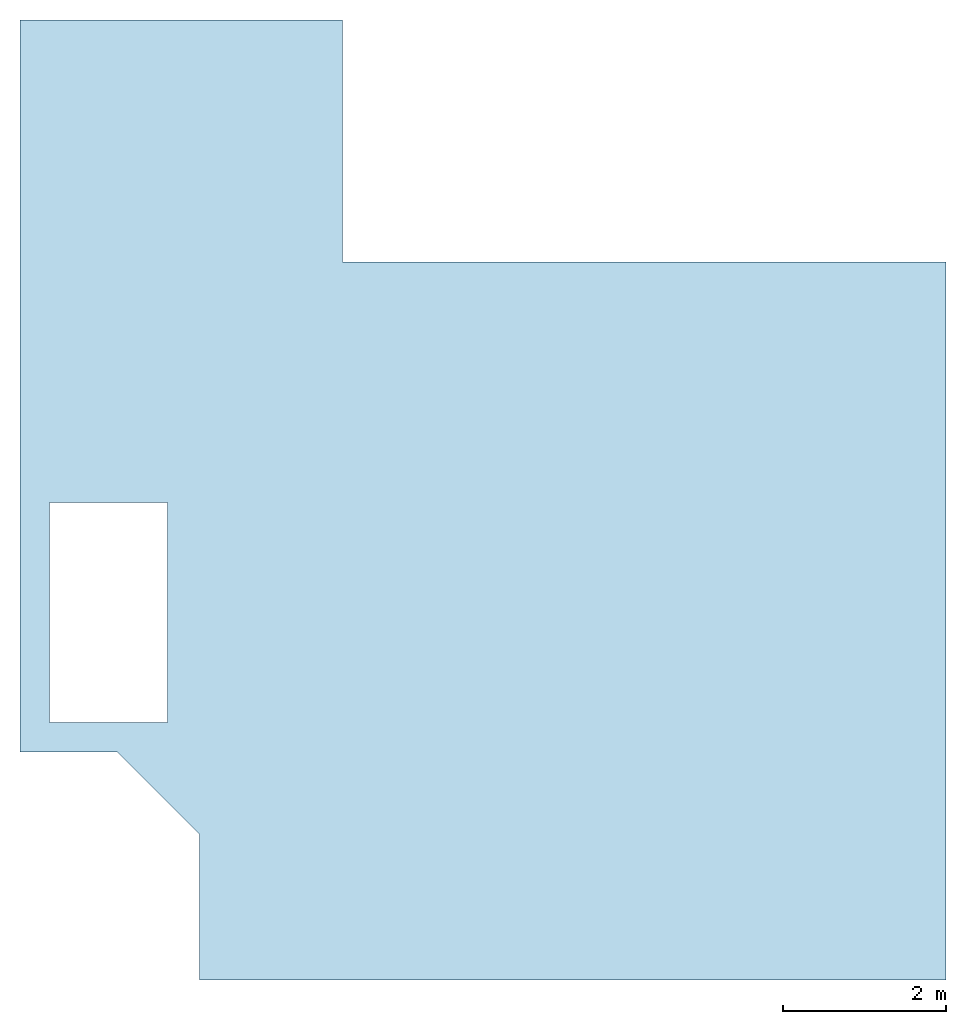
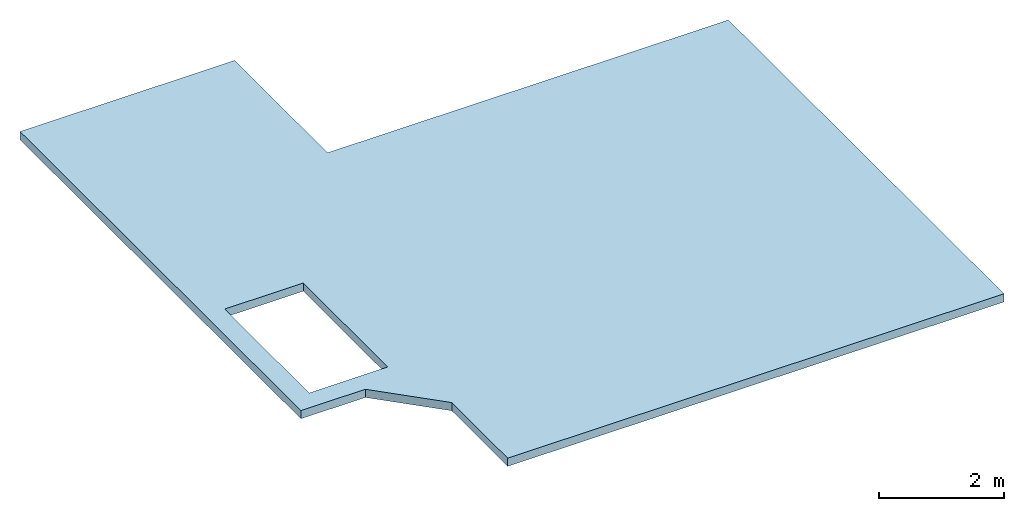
# One storey: 1 slab, 1 opening.
"""IFC2X3 building model written with IfcOpenShell, lengths in centimetres."""

import ifcopenshell
import ifcopenshell.guid

model = None  # the IFC model being written
_history = None  # IfcOwnerHistory: only IFC2X3 demands one
_inside = {}  # id of a spatial element -> (the spatial element, [elements in it])
_under = {}  # id of a project, library or spatial element -> (it, [spatial elements below it])
_declared = {}  # id of a project -> (the project, [libraries it declares])
_typed = {}  # id of a type object -> (the type object, [elements of that type])
_made_of = {}  # id of a material, layer set ... -> (it, [elements and type objects made of it])


def new_model(schema):
    """Start an empty IFC model of exactly this schema.

    Asked for "IFC4X3", IfcOpenShell would pick the latest addendum, in which some entities
    have other attributes; the version numbers below select the first issue.
    IFC2X3 requires an IfcOwnerHistory on every rooted entity: one is made here for all.
    """
    global model, _history
    if schema == "IFC4X3":
        model = ifcopenshell.file(schema_version=(4, 3, 0, 0))
    else:
        model = ifcopenshell.file(schema=schema)
    _inside.clear()
    _under.clear()
    _declared.clear()
    _typed.clear()
    _made_of.clear()
    _history = None
    if model.schema == "IFC2X3":
        org = make("IfcOrganization", Name="unknown")
        user = make(
            "IfcPersonAndOrganization",
            ThePerson=make("IfcPerson", FamilyName="unknown"),
            TheOrganization=org,
        )
        app = make(
            "IfcApplication",
            ApplicationDeveloper=org,
            Version="unknown",
            ApplicationFullName="unknown",
            ApplicationIdentifier="unknown",
        )
        _history = make(
            "IfcOwnerHistory",
            OwningUser=user,
            OwningApplication=app,
            ChangeAction="ADDED",
            CreationDate=0,
        )
    return model


def make(cls, **values):
    """One entity of the class cls with the attributes given. An attribute that is None is left unset."""
    return model.create_entity(
        cls, **{name: value for name, value in values.items() if value is not None}
    )


def entity(cls, *values):
    """Any entity or typed value of the class cls, its attributes in the order of the schema. None: left unset."""
    e = model.create_entity(cls)
    for i, value in enumerate(values):
        if value is not None:
            e[i] = value
    return e


def rooted(cls, **values):
    """An entity with a GlobalId (a new one), such as an element, a storey or a relation."""
    return make(cls, GlobalId=ifcopenshell.guid.new(), OwnerHistory=_history, **values)


def si_unit(unit_type, name, prefix=None):
    """IfcSIUnit, for example si_unit("LENGTHUNIT", "METRE", prefix="MILLI")."""
    return make("IfcSIUnit", UnitType=unit_type, Prefix=prefix, Name=name)


def converted_unit(unit_type, name, factor, base, dimensions=None, offset=None):
    """IfcConversionBasedUnit, such as the inch: factor (a typed value) times the base unit."""
    return make(
        "IfcConversionBasedUnit"
        if offset is None
        else "IfcConversionBasedUnitWithOffset",
        ConversionOffset=offset,
        Dimensions=None
        if dimensions is None
        else entity("IfcDimensionalExponents", *dimensions),
        UnitType=unit_type,
        Name=name,
        ConversionFactor=make(
            "IfcMeasureWithUnit", ValueComponent=factor, UnitComponent=base
        ),
    )


def derived_unit(unit_type, elements):
    """IfcDerivedUnit: a product of units, each with its exponent."""
    return make(
        "IfcDerivedUnit",
        Elements=[
            make("IfcDerivedUnitElement", Unit=unit, Exponent=power)
            for unit, power in elements
        ],
        UnitType=unit_type,
    )


def assignment(units):
    """IfcUnitAssignment: the units of a project."""
    return None if units is None else make("IfcUnitAssignment", Units=units)


def point(xyz):
    """IfcCartesianPoint."""
    return None if xyz is None else make("IfcCartesianPoint", Coordinates=xyz)


def direction(xyz):
    """IfcDirection."""
    return None if xyz is None else make("IfcDirection", DirectionRatios=xyz)


def frame(location, z_axis=None, x_axis=None):
    """IfcAxis2Placement3D, a coordinate frame: its origin and axes. An axis left out is left unset."""
    return make(
        "IfcAxis2Placement3D",
        Location=point(location),
        Axis=direction(z_axis),
        RefDirection=direction(x_axis),
    )


def frame_2d(location, x_axis=None):
    """IfcAxis2Placement2D, a coordinate frame in the plane: its origin and x axis."""
    return make(
        "IfcAxis2Placement2D", Location=point(location), RefDirection=direction(x_axis)
    )


def origin():
    """The frame at (0, 0, 0) with its axes left unset."""
    return frame((0.0, 0.0, 0.0))


def origin_2d_with_axis():
    """The frame at (0, 0) in the plane with the x axis (1, 0) written out."""
    return frame_2d((0.0, 0.0), x_axis=(1.0, 0.0))


def place(relative_to, where):
    """IfcLocalPlacement: puts the frame where relative to a parent placement (None: the world)."""
    return make(
        "IfcLocalPlacement", PlacementRelTo=relative_to, RelativePlacement=where
    )


def context(
    kind, dimensions, precision=None, world=None, true_north=None, identifier=None
):
    """IfcGeometricRepresentationContext, for example the 3D "Model" context."""
    return make(
        "IfcGeometricRepresentationContext",
        ContextIdentifier=identifier,
        ContextType=kind,
        CoordinateSpaceDimension=dimensions,
        Precision=precision,
        WorldCoordinateSystem=world,
        TrueNorth=true_north,
    )


def subcontext(parent, identifier, kind, view, scale=None):
    """IfcGeometricRepresentationSubContext, for example "Body" below "Model"."""
    return make(
        "IfcGeometricRepresentationSubContext",
        ContextIdentifier=identifier,
        ContextType=kind,
        ParentContext=parent,
        TargetScale=scale,
        TargetView=view,
    )


def project(units=None, contexts=None):
    """IfcProject with its units and contexts."""
    return rooted(
        "IfcProject",
        Name="project",
        RepresentationContexts=contexts,
        UnitsInContext=assignment(units),
    )


def spatial(cls, under=None, at=None, **own):
    """A site, building, storey or space (cls), placed at a placement, below another one or the project."""
    s = rooted(cls, ObjectPlacement=at, **own)
    if under is not None:
        _under.setdefault(under.id(), (under, []))[1].append(s)
    return s


def polyline(points):
    """IfcPolyline through the points."""
    return make("IfcPolyline", Points=[point(p) for p in points])


def profile(cls, at=None, kind="AREA", **sizes):
    """A parametric profile (cls). Its sizes go by their IFC names, for example OverallWidth=200.0."""
    return make(cls, ProfileType=kind, Position=at, **sizes)


def rectangle(**sizes):
    """IfcRectangleProfileDef."""
    return profile("IfcRectangleProfileDef", **sizes)


def outline(outer, holes=None, kind="AREA"):
    """IfcArbitraryClosedProfileDef: a profile drawn as a closed curve; with holes, ...WithVoids."""
    if holes is None:
        return make("IfcArbitraryClosedProfileDef", ProfileType=kind, OuterCurve=outer)
    return make(
        "IfcArbitraryProfileDefWithVoids",
        ProfileType=kind,
        OuterCurve=outer,
        InnerCurves=holes,
    )


def extrude(swept, where, along, depth):
    """IfcExtrudedAreaSolid: the profile swept, set in the frame where, extruded along a direction by depth."""
    return make(
        "IfcExtrudedAreaSolid",
        SweptArea=swept,
        Position=where,
        ExtrudedDirection=direction(along),
        Depth=depth,
    )


def shape(context_of_items, identifier, shape_type, items):
    """IfcShapeRepresentation: the items that make up one representation, for example the "Body"."""
    return make(
        "IfcShapeRepresentation",
        ContextOfItems=context_of_items,
        RepresentationIdentifier=identifier,
        RepresentationType=shape_type,
        Items=items,
    )


def material(Name=None, Category=None):
    """IfcMaterial."""
    return make("IfcMaterial", Name=Name, Category=Category)


def layer(
    of_material, thickness, ventilated=None, Name=None, Category=None, Priority=None
):
    """IfcMaterialLayer: one layer of a wall or slab, of a material (None: an air gap)."""
    return make(
        "IfcMaterialLayer",
        Material=of_material,
        LayerThickness=thickness,
        IsVentilated=ventilated,
        Name=Name,
        Category=Category,
        Priority=Priority,
    )


def layer_set(layers, Name=None):
    """IfcMaterialLayerSet."""
    return make("IfcMaterialLayerSet", MaterialLayers=layers, LayerSetName=Name)


def layer_usage(for_layer_set, set_direction, sense, offset, extent=None):
    """IfcMaterialLayerSetUsage: how a layer set lies in its element."""
    return make(
        "IfcMaterialLayerSetUsage",
        ForLayerSet=for_layer_set,
        LayerSetDirection=set_direction,
        DirectionSense=sense,
        OffsetFromReferenceLine=offset,
        ReferenceExtent=extent,
    )


def made_of(thing, what):
    """Note that an element or type object is made of a material, layer set ...; save() writes the relation."""
    if what is not None:
        _made_of.setdefault(what.id(), (what, []))[1].append(thing)
    return thing


def type_object(cls, material=None, **own):
    """A type object (cls), such as IfcWallType, which elements share."""
    return made_of(rooted(cls, **own), material)


def element(
    cls,
    number,
    at=None,
    inside=None,
    cuts=None,
    type_object=None,
    material=None,
    context=None,
    identifier="Body",
    shape_type=None,
    held_by="IfcProductDefinitionShape",
    body=None,
    shapes=None,
    **own,
):
    """One element of the class cls, such as IfcWall. Its Tag is "e" and its number.

    at: its placement. inside: the storey or other place that contains it. cuts: it is an
    opening in that element (IfcRelVoidsElement). A single representation is given by context,
    identifier, shape_type and body (its items); several are given by shapes. held_by: the class
    of the entity that holds the representations. save() writes the other relations.
    """
    e = rooted(cls, Tag="e%d" % number, ObjectPlacement=at, **own)
    if body is not None:
        shapes = [shape(context, identifier, shape_type, body)]
    if shapes is not None:
        e.Representation = make(held_by, Representations=shapes)
    if inside is not None:
        _inside.setdefault(inside.id(), (inside, []))[1].append(e)
    if cuts is not None:
        rooted(
            "IfcRelVoidsElement", RelatingBuildingElement=cuts, RelatedOpeningElement=e
        )
    if type_object is not None:
        _typed.setdefault(type_object.id(), (type_object, []))[1].append(e)
    return made_of(e, material)


def aggregate(whole, parts):
    """IfcRelAggregates: a whole, such as a stair, and the parts it consists of."""
    return rooted("IfcRelAggregates", RelatingObject=whole, RelatedObjects=parts)


def save(model, path):
    """Write the relations noted so far, then the file.

    IfcRelAggregates (storeys below a building ...), IfcRelContainedInSpatialStructure (elements
    in a storey), IfcRelDefinesByType, IfcRelAssociatesMaterial and IfcRelDeclares: one each for
    every whole, place, type object, material and project.
    """
    for whole, parts in _under.values():
        aggregate(whole, parts)
    for where, things in _inside.values():
        rooted(
            "IfcRelContainedInSpatialStructure",
            RelatedElements=things,
            RelatingStructure=where,
        )
    for kind, things in _typed.values():
        rooted("IfcRelDefinesByType", RelatedObjects=things, RelatingType=kind)
    for what, things in _made_of.values():
        rooted("IfcRelAssociatesMaterial", RelatedObjects=things, RelatingMaterial=what)
    for by, libraries in _declared.values():
        rooted("IfcRelDeclares", RelatingContext=by, RelatedDefinitions=libraries)
    model.write(path)


model = new_model("IFC2X3")

# Units and contexts
model_context = context("Model", 3, precision=0.001, world=origin(), true_north=direction((6.123031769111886e-17, 1.0)))
body_context = subcontext(model_context, "Body", "Model", "MODEL_VIEW")
ifc_project = project(units=[si_unit("LENGTHUNIT", "METRE", prefix="CENTI"), si_unit("AREAUNIT", "SQUARE_METRE"), si_unit("VOLUMEUNIT", "CUBIC_METRE"), converted_unit("PLANEANGLEUNIT", "DEGREE", entity("IfcRatioMeasure", 0.017453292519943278), si_unit("PLANEANGLEUNIT", "RADIAN"), dimensions=[0, 0, 0, 0, 0, 0, 0]), si_unit("MASSUNIT", "GRAM", prefix="KILO"), derived_unit("MASSDENSITYUNIT", [(si_unit("MASSUNIT", "GRAM", prefix="KILO"), 1), (si_unit("LENGTHUNIT", "METRE"), -3)]), derived_unit("MOMENTOFINERTIAUNIT", [(si_unit("LENGTHUNIT", "METRE"), 4)]), si_unit("TIMEUNIT", "SECOND"), si_unit("FREQUENCYUNIT", "HERTZ"), si_unit("THERMODYNAMICTEMPERATUREUNIT", "DEGREE_CELSIUS"), derived_unit("THERMALTRANSMITTANCEUNIT", [(si_unit("MASSUNIT", "GRAM", prefix="KILO"), 1), (si_unit("THERMODYNAMICTEMPERATUREUNIT", "KELVIN"), -1), (si_unit("TIMEUNIT", "SECOND"), -3)]), derived_unit("VOLUMETRICFLOWRATEUNIT", [(si_unit("LENGTHUNIT", "METRE"), 3), (si_unit("TIMEUNIT", "SECOND"), -1)]), derived_unit("MASSFLOWRATEUNIT", [(si_unit("MASSUNIT", "GRAM", prefix="KILO"), 1), (si_unit("TIMEUNIT", "SECOND"), -1)]), derived_unit("ROTATIONALFREQUENCYUNIT", [(si_unit("TIMEUNIT", "SECOND"), -1)]), si_unit("ELECTRICCURRENTUNIT", "AMPERE"), si_unit("ELECTRICVOLTAGEUNIT", "VOLT"), si_unit("POWERUNIT", "WATT"), si_unit("FORCEUNIT", "NEWTON", prefix="KILO"), si_unit("ILLUMINANCEUNIT", "LUX"), si_unit("LUMINOUSFLUXUNIT", "LUMEN"), si_unit("LUMINOUSINTENSITYUNIT", "CANDELA"), derived_unit("USERDEFINED", [(si_unit("MASSUNIT", "GRAM", prefix="KILO"), -1), (si_unit("LENGTHUNIT", "METRE"), -2), (si_unit("TIMEUNIT", "SECOND"), 3), (si_unit("LUMINOUSFLUXUNIT", "LUMEN"), 1)]), derived_unit("SOUNDPOWERUNIT", [(si_unit("MASSUNIT", "GRAM", prefix="KILO"), 1), (si_unit("LENGTHUNIT", "METRE"), 2), (si_unit("TIMEUNIT", "SECOND"), -3)]), derived_unit("SOUNDPRESSUREUNIT", [(si_unit("MASSUNIT", "GRAM", prefix="KILO"), 1), (si_unit("LENGTHUNIT", "METRE"), -1), (si_unit("TIMEUNIT", "SECOND"), -2)]), derived_unit("LINEARVELOCITYUNIT", [(si_unit("LENGTHUNIT", "METRE"), 1), (si_unit("TIMEUNIT", "SECOND"), -1)]), si_unit("PRESSUREUNIT", "PASCAL"), derived_unit("USERDEFINED", [(si_unit("LENGTHUNIT", "METRE"), -2), (si_unit("MASSUNIT", "GRAM", prefix="KILO"), 1), (si_unit("TIMEUNIT", "SECOND"), -2)]), derived_unit("LINEARFORCEUNIT", [(si_unit("MASSUNIT", "GRAM", prefix="KILO"), 1), (si_unit("LENGTHUNIT", "METRE"), 1), (si_unit("TIMEUNIT", "SECOND"), -2), (si_unit("LENGTHUNIT", "METRE"), -1)]), derived_unit("PLANARFORCEUNIT", [(si_unit("MASSUNIT", "GRAM", prefix="KILO"), 1), (si_unit("LENGTHUNIT", "METRE"), 1), (si_unit("TIMEUNIT", "SECOND"), -2), (si_unit("LENGTHUNIT", "METRE"), -2)])], contexts=[model_context])

# Site, building, storey
site_placement = place(None, frame((1412.1772603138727, -701.9923171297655, 0.0)))
site = spatial("IfcSite", under=ifc_project, at=site_placement, Name="Default", CompositionType="ELEMENT")
building_placement = place(site_placement, origin())
building = spatial("IfcBuilding", under=site, at=building_placement, CompositionType="ELEMENT")
storey_placement = place(building_placement, frame((0.0, 0.0, 257.0)))
storey = spatial("IfcBuildingStorey", under=building, at=storey_placement, Name="2.57_Dessus dalle", CompositionType="ELEMENT", Elevation=257.0)

# Slab, opening
ifc_material = material(Name="Maçonnerie - Béton dalle")
ifc_layer = layer(ifc_material, 16.0)
ifc_layer_set = layer_set([ifc_layer], Name="Sol:Plancher 12+4")
ifc_layer_usage = layer_usage(ifc_layer_set, "AXIS3", "POSITIVE", 0.0)
slab_type = type_object("IfcSlabType", Name="Sol:Plancher 12+4", PredefinedType="FLOOR", material=ifc_layer_set)
slab_placement = place(storey_placement, frame((-1788.1772603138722, -159.00768287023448, -16.0)))
slab = element("IfcSlab", 1, at=slab_placement, inside=storey, type_object=slab_type, material=ifc_layer_usage, Name="Sol:Plancher 12+4", ObjectType="Sol:Plancher 12+4", PredefinedType="FLOOR", context=body_context, shape_type="SweptSolid", body=[
    extrude(outline(polyline([(172.0, 589.0), (172.0, 292.0), (-568.0, 292.0), (-568.0, -589.0), (348.0, -589.0), (348.0, -410.17157287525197), (449.1715728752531, -309.0), (568.0, -309.0), (568.0, 589.0), (172.0, 589.0)])), frame((568.0, 589.0, 16.0), z_axis=(0.0, 0.0, -1.0), x_axis=(-1.0, 0.0, 0.0)), (0.0, 0.0, 1.0), 15.99999999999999),
])
opening_placement = place(slab_placement, frame((108.50000000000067, 451.0, 16.0)))
element("IfcOpeningElement", 2, at=opening_placement, cuts=slab, Name="Sol:Plancher 12+4:2", ObjectType="Opening", context=body_context, shape_type="SweptSolid", body=[
    extrude(rectangle(XDim=270.0000000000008, YDim=145.00000000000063, at=origin_2d_with_axis()), frame((0.0, 0.0, 0.0), z_axis=(0.0, 0.0, -1.0), x_axis=(0.0, 1.0, 0.0)), (0.0, 0.0, 1.0), 15.99999999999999),
])

save(model, "model.ifc")
